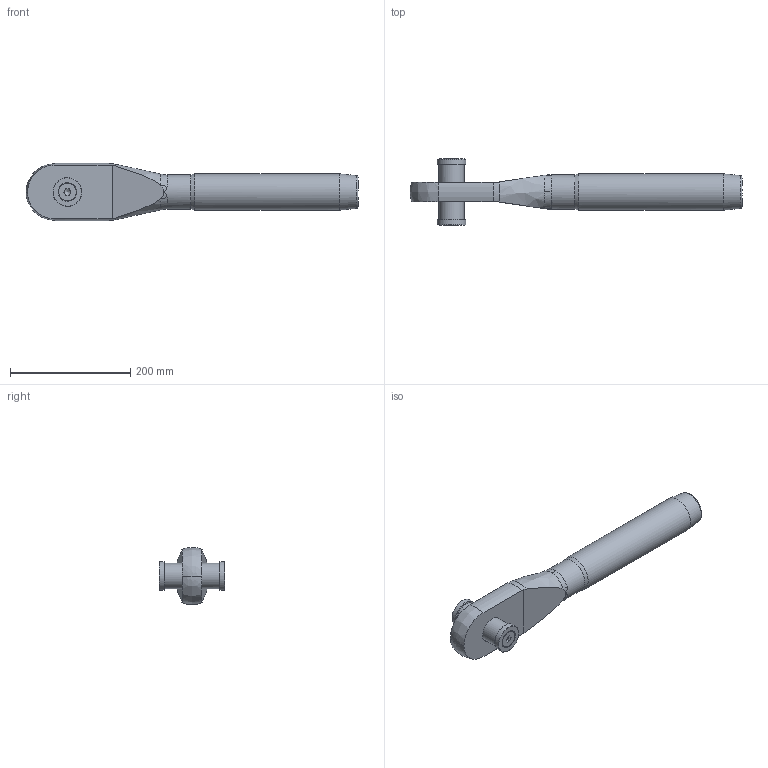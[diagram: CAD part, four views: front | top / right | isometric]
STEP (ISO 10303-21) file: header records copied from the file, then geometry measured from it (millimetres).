
FILE_DESCRIPTION(/* description */ (''),/* implementation_level */ '2;1');
FILE_NAME(/* name */ 'MCC 30_1,4418',/* time_stamp */ '2023-05-23T15:40:37+02:00',/* author */ (''),/* organization */ (''),/* preprocessor_version */ 'ST-DEVELOPER v16.5',/* originating_system */ 'Rhino 7.22',/* authorisation */ '');
FILE_SCHEMA (('CONFIG_CONTROL_DESIGN'));
Length unit declared in the file: millimetre
Products named in the file (1): Document
Bounding box: 552.5 x 109.8 x 95 mm (x, y, z)
Volume: 1671051.5 mm3; surface area: 149414.5 mm2
Topology: 6 solids, 6 shells, 74 faces, 203 edges, 135 vertices
Faces by surface type: bspline 31, plane 27, cylinder 16
Full cylindrical faces by diameter (mm): 13.835 x2, 16 x2, 17 x2, 29.01 x2, 42 x1, 44 x1, 48 x2, 57.2 x1, 60.5 x1
Entity records: 3250 total; most frequent: CARTESIAN_POINT 1995, ORIENTED_EDGE 386, EDGE_CURVE 193, VERTEX_POINT 135, EDGE_LOOP 84, ADVANCED_FACE 74, FACE_OUTER_BOUND 74, B_SPLINE_CURVE_WITH_KNOTS 64
